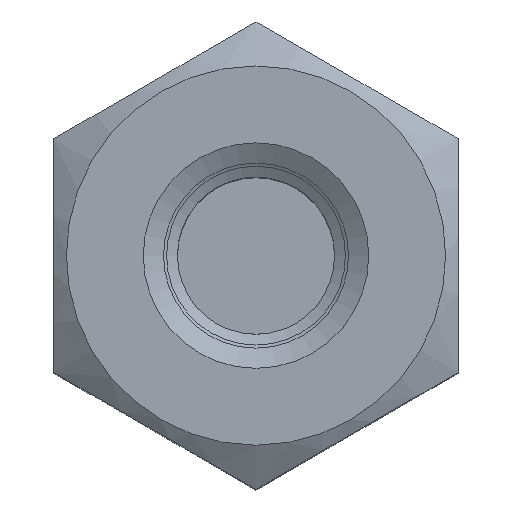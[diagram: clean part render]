
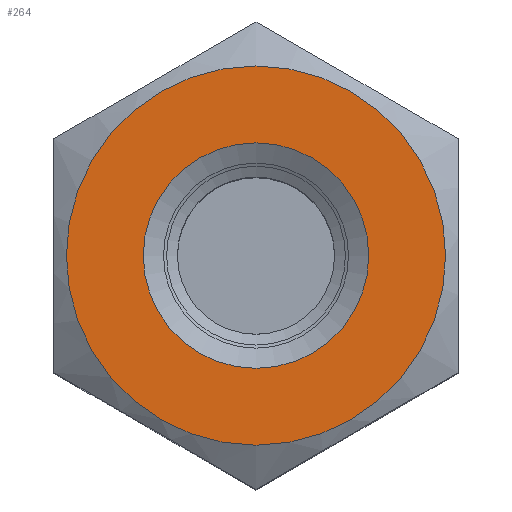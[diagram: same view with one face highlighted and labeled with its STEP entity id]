
A CAD part, top view. The second image highlights one B-rep face of the part: STEP entity #264.
In plain terms, the highlighted planar face has unit normal (0, 0, 1).
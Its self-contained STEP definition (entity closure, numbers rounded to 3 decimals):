
#71 = CIRCLE ( 'NONE', #4340, 8.2 ) ;
#88 = CARTESIAN_POINT ( 'NONE',  ( 8.2, 0., 10. ) ) ;
#140 = ORIENTED_EDGE ( 'NONE', *, *, #4332, .T. ) ;
#264 = ADVANCED_FACE ( 'NONE', ( #1018, #1426 ), #4981, .T. ) ;
#311 = ORIENTED_EDGE ( 'NONE', *, *, #4343, .F. ) ;
#355 = CARTESIAN_POINT ( 'NONE',  ( 0., 0., 10. ) ) ;
#565 = EDGE_LOOP ( 'NONE', ( #140 ) ) ;
#614 = DIRECTION ( 'NONE',  ( 1., 0., 0. ) ) ;
#1018 = FACE_OUTER_BOUND ( 'NONE', #565, .T. ) ;
#1136 = AXIS2_PLACEMENT_3D ( 'NONE', #2794, #2768, #614 ) ;
#1426 = FACE_BOUND ( 'NONE', #3206, .T. ) ;
#1929 = AXIS2_PLACEMENT_3D ( 'NONE', #355, #3174, #2973 ) ;
#2768 = DIRECTION ( 'NONE',  ( 0., 0., 1. ) ) ;
#2794 = CARTESIAN_POINT ( 'NONE',  ( -8.75, 15.155, 10. ) ) ;
#2973 = DIRECTION ( 'NONE',  ( 1., 0., 0. ) ) ;
#3061 = DIRECTION ( 'NONE',  ( 0., 0., 1. ) ) ;
#3165 = CARTESIAN_POINT ( 'NONE',  ( 4.875, 0., 10. ) ) ;
#3174 = DIRECTION ( 'NONE',  ( 0., 0., 1. ) ) ;
#3206 = EDGE_LOOP ( 'NONE', ( #311 ) ) ;
#3468 = DIRECTION ( 'NONE',  ( 1., 0., 0. ) ) ;
#3883 = CARTESIAN_POINT ( 'NONE',  ( 0., 0., 10. ) ) ;
#4162 = CIRCLE ( 'NONE', #1929, 4.875 ) ;
#4332 = EDGE_CURVE ( 'NONE', #4484, #4484, #71, .T. ) ;
#4340 = AXIS2_PLACEMENT_3D ( 'NONE', #3883, #3061, #3468 ) ;
#4343 = EDGE_CURVE ( 'NONE', #5721, #5721, #4162, .T. ) ;
#4484 = VERTEX_POINT ( 'NONE', #88 ) ;
#4981 = PLANE ( 'NONE',  #1136 ) ;
#5721 = VERTEX_POINT ( 'NONE', #3165 ) ;
